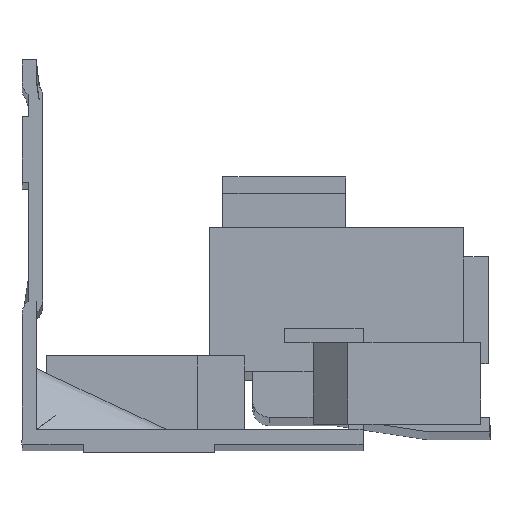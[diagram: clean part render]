
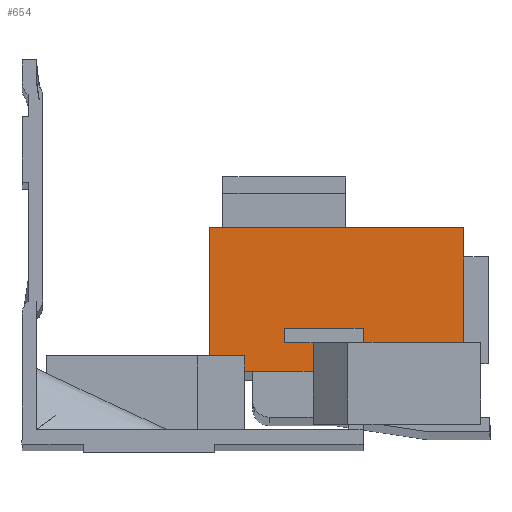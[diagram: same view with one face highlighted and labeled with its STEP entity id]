
A CAD part, front view. The second image highlights one B-rep face of the part: STEP entity #654.
In plain terms, the highlighted planar face has unit normal (0, -1, 0).
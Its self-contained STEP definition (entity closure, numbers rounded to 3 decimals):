
#173 = EDGE_CURVE ( 'NONE', #4344, #4429, #1897, .T. ) ;
#180 = EDGE_CURVE ( 'NONE', #4317, #4429, #1911, .T. ) ;
#191 = EDGE_CURVE ( 'NONE', #4316, #4317, #1933, .T. ) ;
#487 = EDGE_CURVE ( 'NONE', #4359, #4357, #2424, .T. ) ;
#488 = EDGE_CURVE ( 'NONE', #4357, #4337, #2426, .T. ) ;
#489 = EDGE_CURVE ( 'NONE', #4337, #4316, #2428, .T. ) ;
#490 = EDGE_CURVE ( 'NONE', #4330, #4506, #2430, .T. ) ;
#491 = EDGE_CURVE ( 'NONE', #4517, #4330, #2432, .T. ) ;
#492 = EDGE_CURVE ( 'NONE', #4331, #4517, #2434, .T. ) ;
#493 = EDGE_CURVE ( 'NONE', #4331, #4505, #2436, .T. ) ;
#494 = EDGE_CURVE ( 'NONE', #4505, #4359, #2438, .T. ) ;
#501 = EDGE_CURVE ( 'NONE', #4506, #4344, #2452, .T. ) ;
#644 = AXIS2_PLACEMENT_3D ( 'NONE', #2773, #2774, #2775 ) ;
#654 = ADVANCED_FACE ( 'NONE', ( #2522 ), #2772, .F. ) ;
#1037 = EDGE_LOOP ( 'NONE', ( #1660, #1659, #1658, #1657, #1656, #1655, #1654, #1653, #1652, #1651, #1650, #1649 ) ) ;
#1649 = ORIENTED_EDGE ( 'NONE', *, *, #487, .F. ) ;
#1650 = ORIENTED_EDGE ( 'NONE', *, *, #488, .F. ) ;
#1651 = ORIENTED_EDGE ( 'NONE', *, *, #489, .F. ) ;
#1652 = ORIENTED_EDGE ( 'NONE', *, *, #191, .F. ) ;
#1653 = ORIENTED_EDGE ( 'NONE', *, *, #180, .F. ) ;
#1654 = ORIENTED_EDGE ( 'NONE', *, *, #173, .T. ) ;
#1655 = ORIENTED_EDGE ( 'NONE', *, *, #501, .T. ) ;
#1656 = ORIENTED_EDGE ( 'NONE', *, *, #490, .T. ) ;
#1657 = ORIENTED_EDGE ( 'NONE', *, *, #491, .T. ) ;
#1658 = ORIENTED_EDGE ( 'NONE', *, *, #492, .T. ) ;
#1659 = ORIENTED_EDGE ( 'NONE', *, *, #493, .F. ) ;
#1660 = ORIENTED_EDGE ( 'NONE', *, *, #494, .F. ) ;
#1897 = LINE ( 'NONE', #4630, #1898 ) ;
#1898 = VECTOR ( 'NONE', #4631, 1000. ) ;
#1911 = LINE ( 'NONE', #4644, #1912 ) ;
#1912 = VECTOR ( 'NONE', #4645, 1000. ) ;
#1933 = LINE ( 'NONE', #4666, #1934 ) ;
#1934 = VECTOR ( 'NONE', #4667, 1000. ) ;
#2424 = LINE ( 'NONE', #5375, #2425 ) ;
#2425 = VECTOR ( 'NONE', #5376, 1000. ) ;
#2426 = LINE ( 'NONE', #5377, #2427 ) ;
#2427 = VECTOR ( 'NONE', #5378, 1000. ) ;
#2428 = LINE ( 'NONE', #5379, #2429 ) ;
#2429 = VECTOR ( 'NONE', #5380, 1000. ) ;
#2430 = LINE ( 'NONE', #5381, #2431 ) ;
#2431 = VECTOR ( 'NONE', #5382, 1000. ) ;
#2432 = LINE ( 'NONE', #5383, #2433 ) ;
#2433 = VECTOR ( 'NONE', #5384, 1000. ) ;
#2434 = LINE ( 'NONE', #5385, #2435 ) ;
#2435 = VECTOR ( 'NONE', #5386, 1000. ) ;
#2436 = LINE ( 'NONE', #5387, #2437 ) ;
#2437 = VECTOR ( 'NONE', #5388, 1000. ) ;
#2438 = LINE ( 'NONE', #5389, #2439 ) ;
#2439 = VECTOR ( 'NONE', #5390, 1000. ) ;
#2452 = LINE ( 'NONE', #5403, #2453 ) ;
#2453 = VECTOR ( 'NONE', #5404, 1000. ) ;
#2522 = FACE_OUTER_BOUND ( 'NONE', #1037, .T. ) ;
#2772 = PLANE ( 'NONE',  #644 ) ;
#2773 = CARTESIAN_POINT ( 'NONE',  ( 49.9, -20., -27.058 ) ) ;
#2774 = DIRECTION ( 'NONE',  ( 0., 1., 0. ) ) ;
#2775 = DIRECTION ( 'NONE',  ( 1., 0., 0. ) ) ;
#3990 = CARTESIAN_POINT ( 'NONE',  ( 22.9, -20., -9.558 ) ) ;
#3991 = CARTESIAN_POINT ( 'NONE',  ( 53.9, -20., -9.558 ) ) ;
#4004 = CARTESIAN_POINT ( 'NONE',  ( 32., -20., -21.858 ) ) ;
#4005 = CARTESIAN_POINT ( 'NONE',  ( 35.5, -20., -23.608 ) ) ;
#4011 = CARTESIAN_POINT ( 'NONE',  ( 22.9, -20., -25.181 ) ) ;
#4018 = CARTESIAN_POINT ( 'NONE',  ( 41.6, -20., -23.558 ) ) ;
#4031 = CARTESIAN_POINT ( 'NONE',  ( 27.15, -20., -25.181 ) ) ;
#4033 = CARTESIAN_POINT ( 'NONE',  ( 27.15, -20., -27.058 ) ) ;
#4103 = CARTESIAN_POINT ( 'NONE',  ( 53.9, -20., -23.558 ) ) ;
#4179 = CARTESIAN_POINT ( 'NONE',  ( 35.5, -20., -27.058 ) ) ;
#4180 = CARTESIAN_POINT ( 'NONE',  ( 41.6, -20., -21.858 ) ) ;
#4191 = CARTESIAN_POINT ( 'NONE',  ( 32., -20., -23.608 ) ) ;
#4316 = VERTEX_POINT ( 'NONE', #3990 ) ;
#4317 = VERTEX_POINT ( 'NONE', #3991 ) ;
#4330 = VERTEX_POINT ( 'NONE', #4004 ) ;
#4331 = VERTEX_POINT ( 'NONE', #4005 ) ;
#4337 = VERTEX_POINT ( 'NONE', #4011 ) ;
#4344 = VERTEX_POINT ( 'NONE', #4018 ) ;
#4357 = VERTEX_POINT ( 'NONE', #4031 ) ;
#4359 = VERTEX_POINT ( 'NONE', #4033 ) ;
#4429 = VERTEX_POINT ( 'NONE', #4103 ) ;
#4505 = VERTEX_POINT ( 'NONE', #4179 ) ;
#4506 = VERTEX_POINT ( 'NONE', #4180 ) ;
#4517 = VERTEX_POINT ( 'NONE', #4191 ) ;
#4630 = CARTESIAN_POINT ( 'NONE',  ( 49.9, -20., -23.558 ) ) ;
#4631 = DIRECTION ( 'NONE',  ( 1., 0., 0. ) ) ;
#4644 = CARTESIAN_POINT ( 'NONE',  ( 53.9, -20., -29.558 ) ) ;
#4645 = DIRECTION ( 'NONE',  ( 0., 0., -1. ) ) ;
#4666 = CARTESIAN_POINT ( 'NONE',  ( 53.9, -20., -9.558 ) ) ;
#4667 = DIRECTION ( 'NONE',  ( 1., 0., 0. ) ) ;
#5375 = CARTESIAN_POINT ( 'NONE',  ( 27.15, -20., -27.058 ) ) ;
#5376 = DIRECTION ( 'NONE',  ( 0., 0., 1. ) ) ;
#5377 = CARTESIAN_POINT ( 'NONE',  ( 49.9, -20., -25.181 ) ) ;
#5378 = DIRECTION ( 'NONE',  ( -1., 0., 0. ) ) ;
#5379 = CARTESIAN_POINT ( 'NONE',  ( 22.9, -20., -27.058 ) ) ;
#5380 = DIRECTION ( 'NONE',  ( 0., 0., 1. ) ) ;
#5381 = CARTESIAN_POINT ( 'NONE',  ( 41.6, -20., -21.858 ) ) ;
#5382 = DIRECTION ( 'NONE',  ( 1., 0., 0. ) ) ;
#5383 = CARTESIAN_POINT ( 'NONE',  ( 32., -20., -21.831 ) ) ;
#5384 = DIRECTION ( 'NONE',  ( 0., 0., 1. ) ) ;
#5385 = CARTESIAN_POINT ( 'NONE',  ( 32., -20., -23.608 ) ) ;
#5386 = DIRECTION ( 'NONE',  ( -1., 0., 0. ) ) ;
#5387 = CARTESIAN_POINT ( 'NONE',  ( 35.5, -20., -27.058 ) ) ;
#5388 = DIRECTION ( 'NONE',  ( 0., 0., -1. ) ) ;
#5389 = CARTESIAN_POINT ( 'NONE',  ( 49.9, -20., -27.058 ) ) ;
#5390 = DIRECTION ( 'NONE',  ( -1., 0., 0. ) ) ;
#5403 = CARTESIAN_POINT ( 'NONE',  ( 41.6, -20., -35.931 ) ) ;
#5404 = DIRECTION ( 'NONE',  ( 0., 0., -1. ) ) ;
